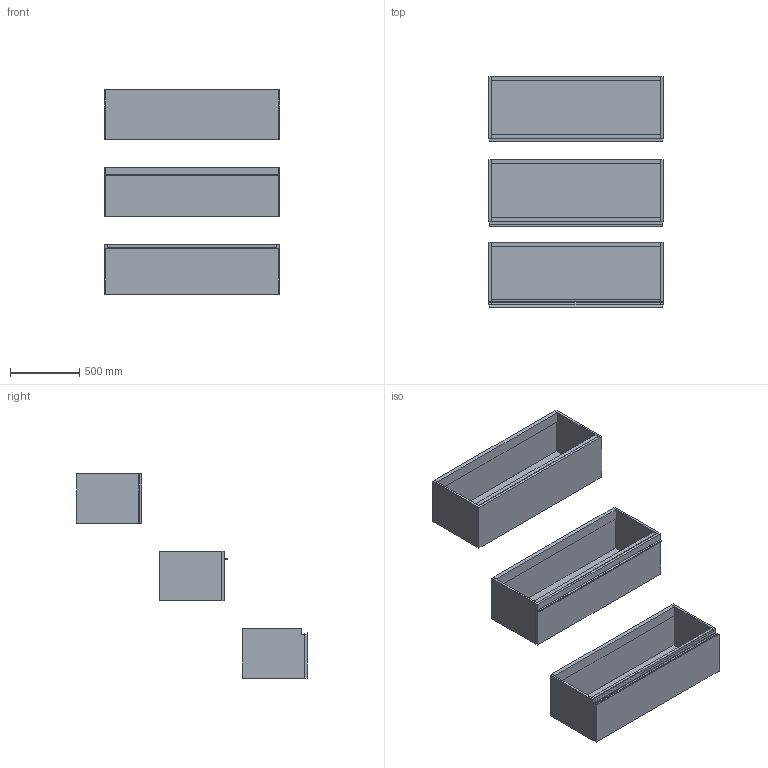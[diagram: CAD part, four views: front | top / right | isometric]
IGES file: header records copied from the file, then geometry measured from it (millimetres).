
Start section: Data from Parasolid IGES Translator 19.0.9, Copyright(c) 2006 Siemens PL M Software. All Rights Reserved.
Global section: file name: noorth-SI-H 36 D 47 W 126_8347.igs; native system: By Siemens PLM Incorporated; preprocessor: XPlus GENERIC/IGES 19.0.9; author: Noname; organization: Noname; date: 20200601.093207; units: metre
Bounding box: 1260 x 1669.1 x 1480.01 mm (x, y, z)
Volume: 81127018.6 mm3; surface area: 12174509.5 mm2
Topology: 23 solids, 23 shells, 196 faces, 418 edges, 258 vertices
Faces by surface type: plane 152, extrusion 16, bspline 16, cylinder 12
